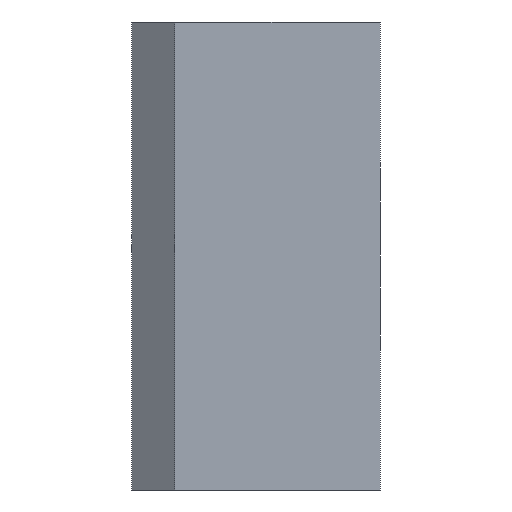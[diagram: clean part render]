
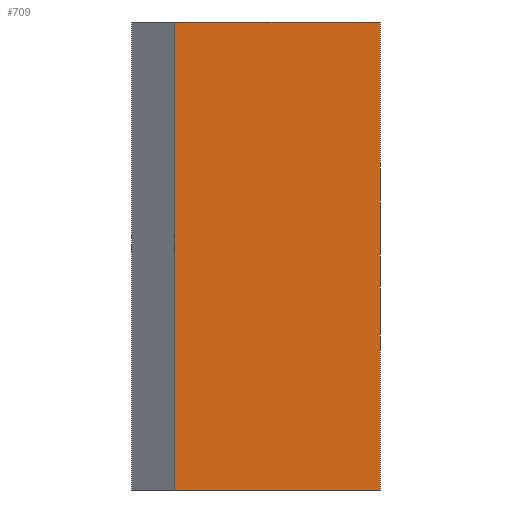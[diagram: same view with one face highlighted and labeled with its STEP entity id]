
A CAD part, left-side view. The second image highlights one B-rep face of the part: STEP entity #709.
In plain terms, the highlighted planar face has unit normal (-1, 0, 0).
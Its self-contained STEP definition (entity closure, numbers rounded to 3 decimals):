
#26 = CARTESIAN_POINT ( 'NONE',  ( -14.5, 6.5, 25. ) ) ;
#29 = LINE ( 'NONE', #404, #573 ) ;
#101 = ORIENTED_EDGE ( 'NONE', *, *, #892, .F. ) ;
#140 = EDGE_CURVE ( 'NONE', #309, #1126, #885, .T. ) ;
#156 = LINE ( 'NONE', #690, #995 ) ;
#209 = DIRECTION ( 'NONE',  ( 1., 0., 0. ) ) ;
#307 = EDGE_CURVE ( 'NONE', #755, #1093, #29, .T. ) ;
#309 = VERTEX_POINT ( 'NONE', #515 ) ;
#392 = ORIENTED_EDGE ( 'NONE', *, *, #307, .F. ) ;
#404 = CARTESIAN_POINT ( 'NONE',  ( -14.5, 6.5, 25. ) ) ;
#490 = DIRECTION ( 'NONE',  ( 0., -1., 0. ) ) ;
#515 = CARTESIAN_POINT ( 'NONE',  ( -14.5, 6.5, 0. ) ) ;
#524 = VECTOR ( 'NONE', #586, 1000. ) ;
#573 = VECTOR ( 'NONE', #490, 1000. ) ;
#586 = DIRECTION ( 'NONE',  ( 0., 0., -1. ) ) ;
#618 = ORIENTED_EDGE ( 'NONE', *, *, #140, .T. ) ;
#629 = VECTOR ( 'NONE', #723, 1000. ) ;
#640 = CARTESIAN_POINT ( 'NONE',  ( -14.5, 6.5, 0. ) ) ;
#690 = CARTESIAN_POINT ( 'NONE',  ( -14.5, 6.5, 25. ) ) ;
#709 = ADVANCED_FACE ( 'NONE', ( #719 ), #816, .F. ) ;
#719 = FACE_OUTER_BOUND ( 'NONE', #1072, .T. ) ;
#723 = DIRECTION ( 'NONE',  ( 0., -1., 0. ) ) ;
#752 = LINE ( 'NONE', #1002, #524 ) ;
#755 = VERTEX_POINT ( 'NONE', #26 ) ;
#778 = CARTESIAN_POINT ( 'NONE',  ( -14.5, -4.5, 0. ) ) ;
#786 = ORIENTED_EDGE ( 'NONE', *, *, #1079, .T. ) ;
#816 = PLANE ( 'NONE',  #1014 ) ;
#821 = CARTESIAN_POINT ( 'NONE',  ( -14.5, 6.5, 25. ) ) ;
#885 = LINE ( 'NONE', #640, #629 ) ;
#892 = EDGE_CURVE ( 'NONE', #1093, #1126, #752, .T. ) ;
#995 = VECTOR ( 'NONE', #1128, 1000. ) ;
#1002 = CARTESIAN_POINT ( 'NONE',  ( -14.5, -4.5, 25. ) ) ;
#1014 = AXIS2_PLACEMENT_3D ( 'NONE', #821, #209, #1073 ) ;
#1037 = CARTESIAN_POINT ( 'NONE',  ( -14.5, -4.5, 25. ) ) ;
#1072 = EDGE_LOOP ( 'NONE', ( #618, #101, #392, #786 ) ) ;
#1073 = DIRECTION ( 'NONE',  ( 0., 0., -1. ) ) ;
#1079 = EDGE_CURVE ( 'NONE', #755, #309, #156, .T. ) ;
#1093 = VERTEX_POINT ( 'NONE', #1037 ) ;
#1126 = VERTEX_POINT ( 'NONE', #778 ) ;
#1128 = DIRECTION ( 'NONE',  ( 0., 0., -1. ) ) ;
